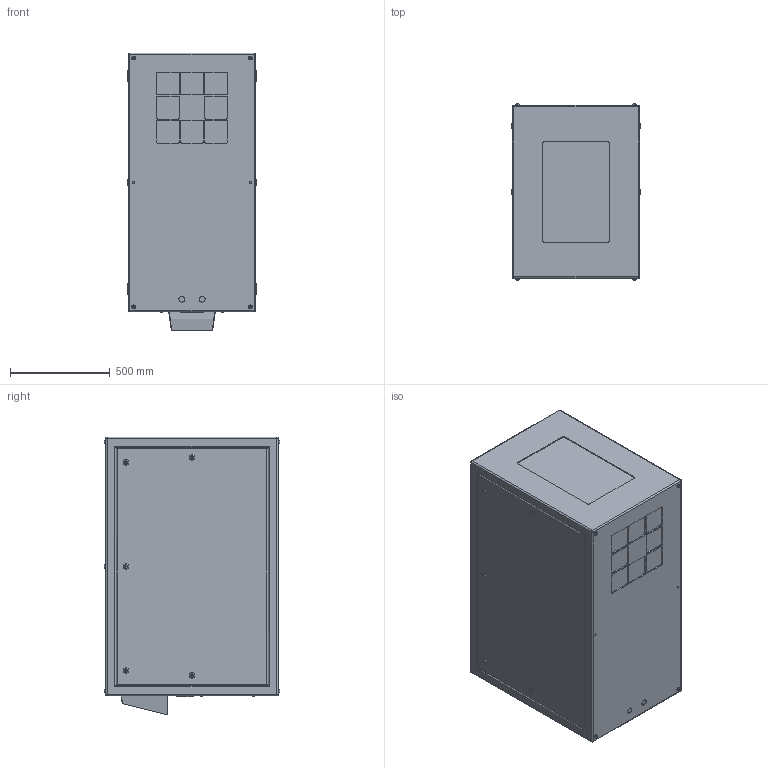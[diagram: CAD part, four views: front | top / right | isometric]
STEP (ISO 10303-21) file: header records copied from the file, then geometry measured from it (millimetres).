
FILE_DESCRIPTION (( 'STEP AP214' ), '1' );
FILE_NAME ('Cyclone 55.305.P.xx R08.STEP', '2020-04-24T15:35:57', ( '' ), ( '' ), 'SwSTEP 2.0', 'SolidWorks 2018', '' );
FILE_SCHEMA (( 'AUTOMOTIVE_DESIGN' ));
Length unit declared in the file: inch
Products named in the file (1): Cyclone 55.305.P.xx R08
Bounding box: 647.7 x 878.33 x 1390.65 mm (x, y, z)
Volume: 708325355.6 mm3; surface area: 5600820.2 mm2
Topology: 1 solids, 1 shells, 539 faces, 1254 edges, 800 vertices
Faces by surface type: plane 293, cylinder 186, torus 52, sphere 8
Entity records: 20092 total; most frequent: DIRECTION 2754, CARTESIAN_POINT 2634, ORIENTED_EDGE 2492, EDGE_CURVE 1246, AXIS2_PLACEMENT_3D 984, VERTEX_POINT 800, LINE 786, VECTOR 786
